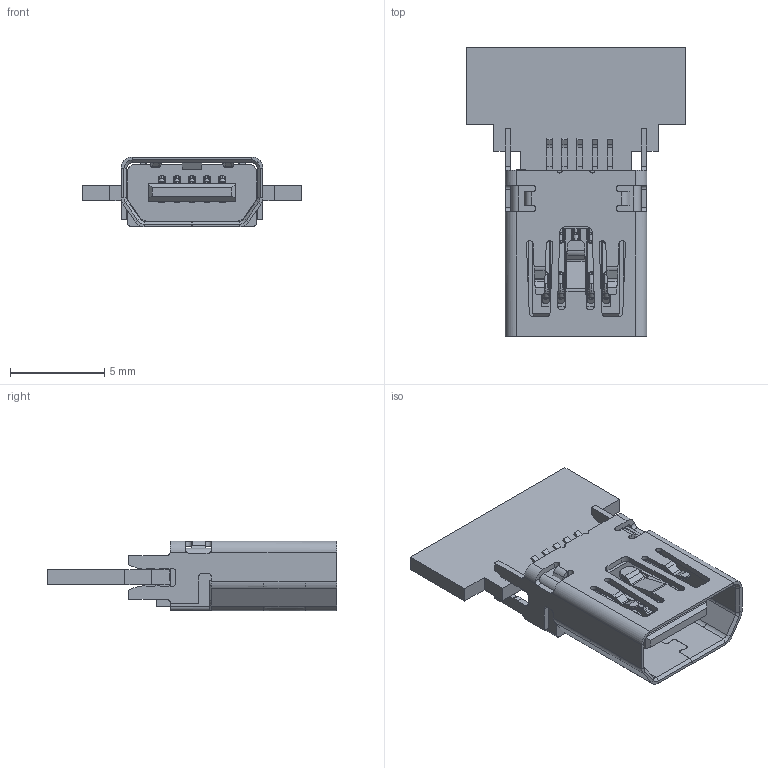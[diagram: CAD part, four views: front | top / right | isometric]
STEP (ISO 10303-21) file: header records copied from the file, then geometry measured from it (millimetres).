
FILE_DESCRIPTION(('CATIA V5 STEP Exchange'),'2;1');
FILE_NAME('F:\Work File\4新产品开发\17.MINI USB 10P公头\MINI 10P REC 3D\1031003AR008 (MINI USB 10P母座带PCB不锈钢壳10焊点T-051)_E.stp','2023-09-14T04:04:45+00:00',('none'),('none'),'CATIA Version 5 Release 21 GA (IN-10)','CATIA V5 STEP AP203','none');
FILE_SCHEMA(('CONFIG_CONTROL_DESIGN'));
Length unit declared in the file: millimetre
Products named in the file (1): Product1
Assembly tree (13 placements, depth 2):
  Product1
    #58
    #8848
    #21650  x5
    #29489  x5
    #31444
Bounding box: 11.6 x 15.3 x 3.7 mm (x, y, z)
Volume: 179.4 mm3; surface area: 822.3 mm2
Topology: 13 solids, 683 shells, 1644 faces, 6281 edges, 5240 vertices
Faces by surface type: plane 881, cylinder 546, torus 105, bspline 56, sphere 40, extrusion 10, cone 6
Entity records: 31810 total; most frequent: CARTESIAN_POINT 9143, ORIENTED_EDGE 4681, DIRECTION 3808, EDGE_CURVE 2685, VERTEX_POINT 1978, VECTOR 1910, LINE 1900, AXIS2_PLACEMENT_3D 1110
